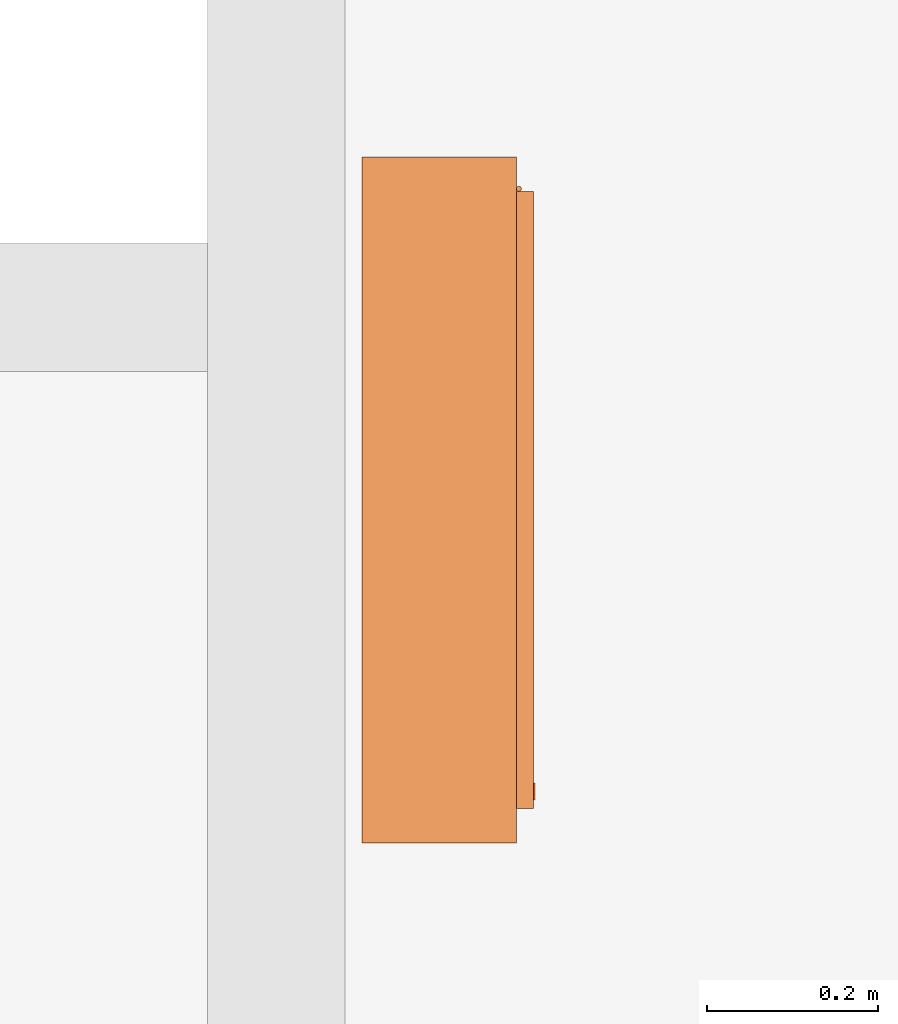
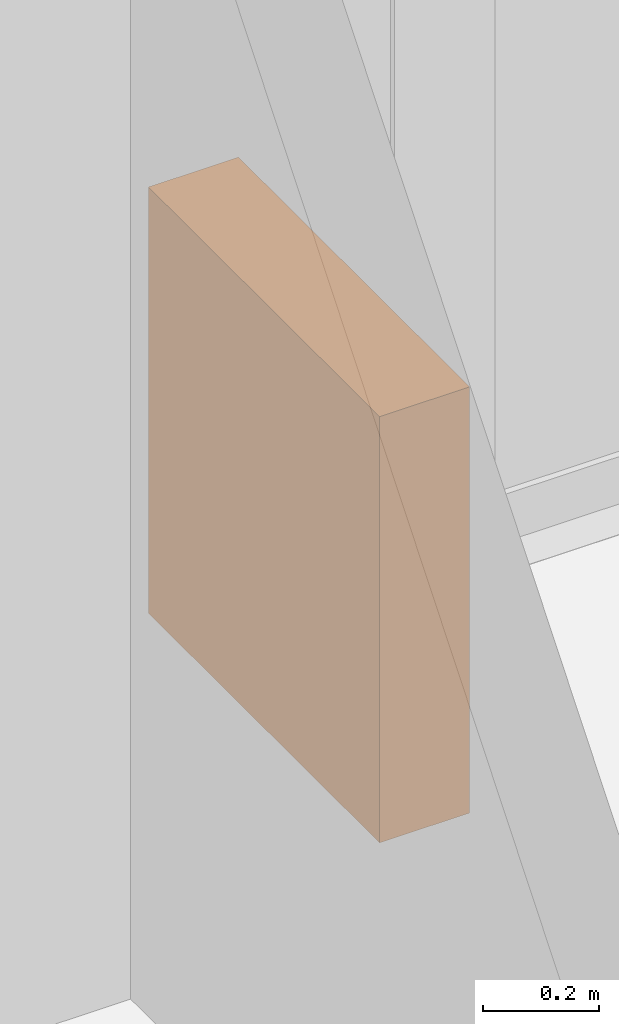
# One storey, part 10 of 67: 1 proxy.
"""IFC2X3 building model written with IfcOpenShell, lengths in millimetres."""

from ifc_helpers import new_model, entity, si_unit, converted_unit, derived_unit, money_unit, direction, frame, origin_with_axes, place, context, subcontext, project, spatial, faceted_brep, source, transform, mapped, type_object, element, save


model = new_model("IFC2X3")

# Units and contexts
model_context = context("Model", 3, precision=0.01, world=origin_with_axes(), true_north=direction((0.34421633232, 0.938890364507)))
body_context = subcontext(model_context, "Body", "Model", "MODEL_VIEW")
ifc_project = project(units=[si_unit("LENGTHUNIT", "METRE", prefix="MILLI"), si_unit("AREAUNIT", "SQUARE_METRE"), si_unit("VOLUMEUNIT", "CUBIC_METRE"), converted_unit("PLANEANGLEUNIT", "DEGREE", entity("IfcPlaneAngleMeasure", 0.0174532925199), si_unit("PLANEANGLEUNIT", "RADIAN"), dimensions=[0, 0, 0, 0, 0, 0, 0]), si_unit("SOLIDANGLEUNIT", "STERADIAN"), money_unit("USD"), converted_unit("TIMEUNIT", "Year", entity("IfcTimeMeasure", 31556926.0), si_unit("TIMEUNIT", "SECOND"), dimensions=[0, 0, 1, 0, 0, 0, 0]), si_unit("MASSUNIT", "GRAM", prefix="KILO"), si_unit("THERMODYNAMICTEMPERATUREUNIT", "DEGREE_CELSIUS"), si_unit("LUMINOUSINTENSITYUNIT", "LUMEN"), si_unit("ENERGYUNIT", "JOULE", prefix="MEGA"), derived_unit("THERMALCONDUCTANCEUNIT", [(si_unit("POWERUNIT", "WATT"), 1), (si_unit("LENGTHUNIT", "METRE"), -1), (si_unit("THERMODYNAMICTEMPERATUREUNIT", "KELVIN"), -1)]), derived_unit("SPECIFICHEATCAPACITYUNIT", [(si_unit("ENERGYUNIT", "JOULE"), 1), (si_unit("MASSUNIT", "GRAM", prefix="KILO"), -1), (si_unit("THERMODYNAMICTEMPERATUREUNIT", "KELVIN"), -1)]), derived_unit("MASSDENSITYUNIT", [(si_unit("MASSUNIT", "GRAM", prefix="KILO"), 1), (si_unit("VOLUMEUNIT", "CUBIC_METRE"), -1)])], contexts=[model_context])

# Site, building, storey
site_placement = place(None, origin_with_axes())
site = spatial("IfcSite", under=ifc_project, at=site_placement, Name="USTRONIE MORSKIE", CompositionType="ELEMENT")
building_placement = place(site_placement, origin_with_axes())
building = spatial("IfcBuilding", under=site, at=building_placement, Name="Budynek", CompositionType="ELEMENT")
storey_placement = place(building_placement, frame((0.0, 0.0, 4000.0), z_axis=(0.0, 0.0, 1.0), x_axis=(1.0, 0.0, 0.0)))
storey = spatial("IfcBuildingStorey", under=building, at=storey_placement, Name="PIĘTRO 1", CompositionType="ELEMENT", Elevation=4000.0)

# Proxy
building_element_proxy_type = type_object("IfcBuildingElementProxyType", Name="Skrzynka P-Poż 23", PredefinedType="NOTDEFINED")
shared_shape = source(origin_with_axes(), body_context, "Body", "Brep", [
    faceted_brep([(0.0, 40.0, 0.0), (0.0, 20.0, 0.0), (-800.0, 20.0, 0.0), (-800.0, 40.0, 0.0), (0.0, 40.0, 900.0), (0.0, 20.0, 900.0), (-800.0, 20.0, 900.0), (-60.0, 20.0, 60.0), (-740.0, 20.0, 60.0), (-740.0, 20.0, 840.0), (-60.0, 20.0, 840.0), (-800.0, 40.0, 900.0), (-60.0, 40.0, 60.0), (-60.0, 40.0, 840.0), (-740.0, 40.0, 840.0), (-740.0, 40.0, 60.0)], [[[0, 1, 2, 3]], [[4, 5, 1, 0]], [[1, 5, 6, 2], [7, 8, 9, 10]], [[3, 2, 6, 11]], [[0, 3, 11, 4], [12, 13, 14, 15]], [[11, 6, 5, 4]], [[15, 8, 7, 12]], [[14, 9, 8, 15]], [[13, 10, 9, 14]], [[12, 7, 10, 13]]]),
    faceted_brep([(-40.0, 20.0, 40.0), (-40.0, 0.0, 40.0), (-760.0, 0.0, 40.0), (-760.0, 20.0, 40.0), (-40.0, 20.0, 860.0), (-40.0, 0.0, 860.0), (-760.0, 0.0, 860.0), (-80.0, 0.0, 80.0), (-720.0, 0.0, 80.0), (-720.0, 0.0, 820.0), (-80.0, 0.0, 820.0), (-760.0, 20.0, 860.0), (-80.0, 20.0, 80.0), (-80.0, 20.0, 820.0), (-720.0, 20.0, 820.0), (-720.0, 20.0, 80.0)], [[[0, 1, 2, 3]], [[4, 5, 1, 0]], [[1, 5, 6, 2], [7, 8, 9, 10]], [[3, 2, 6, 11]], [[0, 3, 11, 4], [12, 13, 14, 15]], [[11, 6, 5, 4]], [[15, 8, 7, 12]], [[14, 9, 8, 15]], [[13, 10, 9, 14]], [[12, 7, 10, 13]]]),
    faceted_brep([(0.0, 180.0, 0.0), (0.0, 40.0, 0.0), (-800.0, 40.0, 0.0), (-800.0, 180.0, 0.0), (0.0, 180.0, 900.0), (0.0, 40.0, 900.0), (-800.0, 40.0, 900.0), (-20.0, 40.0, 20.0), (-780.0, 40.0, 20.0), (-780.0, 40.0, 880.0), (-20.0, 40.0, 880.0), (-800.0, 180.0, 900.0), (-20.0, 180.0, 20.0), (-20.0, 180.0, 880.0), (-780.0, 180.0, 880.0), (-780.0, 180.0, 20.0)], [[[0, 1, 2, 3]], [[4, 5, 1, 0]], [[1, 5, 6, 2], [7, 8, 9, 10]], [[3, 2, 6, 11]], [[0, 3, 11, 4], [12, 13, 14, 15]], [[11, 6, 5, 4]], [[15, 8, 7, 12]], [[14, 9, 8, 15]], [[13, 10, 9, 14]], [[12, 7, 10, 13]]]),
    faceted_brep([(0.0, 200.0, 0.0), (0.0, 180.0, 0.0), (-800.0, 180.0, 0.0), (-800.0, 200.0, 0.0), (0.0, 200.0, 900.0), (0.0, 180.0, 900.0), (-800.0, 180.0, 900.0), (-800.0, 200.0, 900.0)], [[[0, 1, 2, 3]], [[4, 5, 1, 0]], [[1, 5, 6, 2]], [[3, 2, 6, 7]], [[0, 3, 7, 4]], [[7, 6, 5, 4]]]),
    faceted_brep([(-80.0, 15.0, 80.0), (-80.0, 5.0, 80.0), (-720.0, 5.0, 80.0), (-720.0, 15.0, 80.0), (-80.0, 15.0, 820.0), (-80.0, 5.0, 820.0), (-720.0, 5.0, 820.0), (-720.0, 15.0, 820.0)], [[[0, 1, 2, 3]], [[4, 5, 1, 0]], [[1, 5, 6, 2]], [[3, 2, 6, 7]], [[0, 3, 7, 4]], [[7, 6, 5, 4]]]),
    faceted_brep([(-749.659258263, 0.0, 447.411809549), (-750.0, 0.0, 450.0), (-749.659258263, 0.0, 452.588190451), (-748.660254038, 0.0, 455.0), (-747.071067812, 0.0, 457.071067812), (-745.0, 0.0, 458.660254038), (-742.588190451, 0.0, 459.659258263), (-740.0, 0.0, 460.0), (-737.411809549, 0.0, 459.659258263), (-735.0, 0.0, 458.660254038), (-732.928932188, 0.0, 457.071067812), (-731.339745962, 0.0, 455.0), (-730.340741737, 0.0, 452.588190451), (-730.0, 0.0, 450.0), (-730.340741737, 0.0, 447.411809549), (-731.339745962, 0.0, 445.0), (-732.928932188, 0.0, 442.928932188), (-735.0, 0.0, 441.339745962), (-737.411809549, 0.0, 440.340741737), (-740.0, 0.0, 440.0), (-742.588190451, 0.0, 440.340741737), (-745.0, 0.0, 441.339745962), (-747.071067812, 0.0, 442.928932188), (-748.660254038, 0.0, 445.0), (-749.659258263, -2.0, 447.411809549), (-750.0, -2.0, 450.0), (-749.659258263, -2.0, 452.588190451), (-748.660254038, -2.0, 455.0), (-747.071067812, -2.0, 457.071067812), (-745.0, -2.0, 458.660254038), (-742.588190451, -2.0, 459.659258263), (-740.0, -2.0, 460.0), (-737.411809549, -2.0, 459.659258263), (-735.0, -2.0, 458.660254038), (-732.928932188, -2.0, 457.071067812), (-731.339745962, -2.0, 455.0), (-730.340741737, -2.0, 452.588190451), (-730.0, -2.0, 450.0), (-730.340741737, -2.0, 447.411809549), (-731.339745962, -2.0, 445.0), (-732.928932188, -2.0, 442.928932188), (-735.0, -2.0, 441.339745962), (-737.411809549, -2.0, 440.340741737), (-740.0, -2.0, 440.0), (-742.588190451, -2.0, 440.340741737), (-745.0, -2.0, 441.339745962), (-747.071067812, -2.0, 442.928932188), (-748.660254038, -2.0, 445.0)], [[[0, 1, 2, 3, 4, 5, 6, 7, 8, 9, 10, 11, 12, 13, 14, 15, 16, 17, 18, 19, 20, 21, 22, 23]], [[0, 24, 25, 1]], [[1, 25, 26, 2]], [[2, 26, 27, 3]], [[3, 27, 28, 4]], [[4, 28, 29, 5]], [[5, 29, 30, 6]], [[6, 30, 31, 7]], [[7, 31, 32, 8]], [[8, 32, 33, 9]], [[9, 33, 34, 10]], [[10, 34, 35, 11]], [[11, 35, 36, 12]], [[12, 36, 37, 13]], [[13, 37, 38, 14]], [[14, 38, 39, 15]], [[15, 39, 40, 16]], [[16, 40, 41, 17]], [[17, 41, 42, 18]], [[18, 42, 43, 19]], [[19, 43, 44, 20]], [[20, 44, 45, 21]], [[21, 45, 46, 22]], [[22, 46, 47, 23]], [[23, 47, 24, 0]], [[24, 47, 46, 45, 44, 43, 42, 41, 40, 39, 38, 37, 36, 35, 34, 33, 32, 31, 30, 29, 28, 27, 26, 25]]]),
    faceted_brep([(-39.8977774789, 16.2235428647, 80.0), (-40.0, 17.0, 80.0), (-39.8977774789, 17.7764571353, 80.0), (-39.5980762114, 18.5, 80.0), (-39.1213203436, 19.1213203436, 80.0), (-38.5, 19.5980762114, 80.0), (-37.7764571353, 19.8977774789, 80.0), (-37.0, 20.0, 80.0), (-36.2235428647, 19.8977774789, 80.0), (-35.5, 19.5980762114, 80.0), (-34.8786796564, 19.1213203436, 80.0), (-34.4019237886, 18.5, 80.0), (-34.1022225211, 17.7764571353, 80.0), (-34.0, 17.0, 80.0), (-34.1022225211, 16.2235428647, 80.0), (-34.4019237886, 15.5, 80.0), (-34.8786796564, 14.8786796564, 80.0), (-35.5, 14.4019237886, 80.0), (-36.2235428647, 14.1022225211, 80.0), (-37.0, 14.0, 80.0), (-37.7764571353, 14.1022225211, 80.0), (-38.5, 14.4019237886, 80.0), (-39.1213203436, 14.8786796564, 80.0), (-39.5980762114, 15.5, 80.0), (-39.8977774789, 16.2235428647, 120.0), (-40.0, 17.0, 120.0), (-39.8977774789, 17.7764571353, 120.0), (-39.5980762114, 18.5, 120.0), (-39.1213203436, 19.1213203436, 120.0), (-38.5, 19.5980762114, 120.0), (-37.7764571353, 19.8977774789, 120.0), (-37.0, 20.0, 120.0), (-36.2235428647, 19.8977774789, 120.0), (-35.5, 19.5980762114, 120.0), (-34.8786796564, 19.1213203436, 120.0), (-34.4019237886, 18.5, 120.0), (-34.1022225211, 17.7764571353, 120.0), (-34.0, 17.0, 120.0), (-34.1022225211, 16.2235428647, 120.0), (-34.4019237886, 15.5, 120.0), (-34.8786796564, 14.8786796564, 120.0), (-35.5, 14.4019237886, 120.0), (-36.2235428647, 14.1022225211, 120.0), (-37.0, 14.0, 120.0), (-37.7764571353, 14.1022225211, 120.0), (-38.5, 14.4019237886, 120.0), (-39.1213203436, 14.8786796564, 120.0), (-39.5980762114, 15.5, 120.0)], [[[0, 1, 2, 3, 4, 5, 6, 7, 8, 9, 10, 11, 12, 13, 14, 15, 16, 17, 18, 19, 20, 21, 22, 23]], [[0, 24, 25, 1]], [[1, 25, 26, 2]], [[2, 26, 27, 3]], [[3, 27, 28, 4]], [[4, 28, 29, 5]], [[5, 29, 30, 6]], [[6, 30, 31, 7]], [[7, 31, 32, 8]], [[8, 32, 33, 9]], [[9, 33, 34, 10]], [[10, 34, 35, 11]], [[11, 35, 36, 12]], [[12, 36, 37, 13]], [[13, 37, 38, 14]], [[14, 38, 39, 15]], [[15, 39, 40, 16]], [[16, 40, 41, 17]], [[17, 41, 42, 18]], [[18, 42, 43, 19]], [[19, 43, 44, 20]], [[20, 44, 45, 21]], [[21, 45, 46, 22]], [[22, 46, 47, 23]], [[23, 47, 24, 0]], [[24, 47, 46, 45, 44, 43, 42, 41, 40, 39, 38, 37, 36, 35, 34, 33, 32, 31, 30, 29, 28, 27, 26, 25]]]),
    faceted_brep([(-39.8977774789, 16.2235428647, 780.0), (-40.0, 17.0, 780.0), (-39.8977774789, 17.7764571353, 780.0), (-39.5980762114, 18.5, 780.0), (-39.1213203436, 19.1213203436, 780.0), (-38.5, 19.5980762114, 780.0), (-37.7764571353, 19.8977774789, 780.0), (-37.0, 20.0, 780.0), (-36.2235428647, 19.8977774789, 780.0), (-35.5, 19.5980762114, 780.0), (-34.8786796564, 19.1213203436, 780.0), (-34.4019237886, 18.5, 780.0), (-34.1022225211, 17.7764571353, 780.0), (-34.0, 17.0, 780.0), (-34.1022225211, 16.2235428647, 780.0), (-34.4019237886, 15.5, 780.0), (-34.8786796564, 14.8786796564, 780.0), (-35.5, 14.4019237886, 780.0), (-36.2235428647, 14.1022225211, 780.0), (-37.0, 14.0, 780.0), (-37.7764571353, 14.1022225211, 780.0), (-38.5, 14.4019237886, 780.0), (-39.1213203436, 14.8786796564, 780.0), (-39.5980762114, 15.5, 780.0), (-39.8977774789, 16.2235428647, 820.0), (-40.0, 17.0, 820.0), (-39.8977774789, 17.7764571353, 820.0), (-39.5980762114, 18.5, 820.0), (-39.1213203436, 19.1213203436, 820.0), (-38.5, 19.5980762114, 820.0), (-37.7764571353, 19.8977774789, 820.0), (-37.0, 20.0, 820.0), (-36.2235428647, 19.8977774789, 820.0), (-35.5, 19.5980762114, 820.0), (-34.8786796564, 19.1213203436, 820.0), (-34.4019237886, 18.5, 820.0), (-34.1022225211, 17.7764571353, 820.0), (-34.0, 17.0, 820.0), (-34.1022225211, 16.2235428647, 820.0), (-34.4019237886, 15.5, 820.0), (-34.8786796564, 14.8786796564, 820.0), (-35.5, 14.4019237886, 820.0), (-36.2235428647, 14.1022225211, 820.0), (-37.0, 14.0, 820.0), (-37.7764571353, 14.1022225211, 820.0), (-38.5, 14.4019237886, 820.0), (-39.1213203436, 14.8786796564, 820.0), (-39.5980762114, 15.5, 820.0)], [[[0, 1, 2, 3, 4, 5, 6, 7, 8, 9, 10, 11, 12, 13, 14, 15, 16, 17, 18, 19, 20, 21, 22, 23]], [[0, 24, 25, 1]], [[1, 25, 26, 2]], [[2, 26, 27, 3]], [[3, 27, 28, 4]], [[4, 28, 29, 5]], [[5, 29, 30, 6]], [[6, 30, 31, 7]], [[7, 31, 32, 8]], [[8, 32, 33, 9]], [[9, 33, 34, 10]], [[10, 34, 35, 11]], [[11, 35, 36, 12]], [[12, 36, 37, 13]], [[13, 37, 38, 14]], [[14, 38, 39, 15]], [[15, 39, 40, 16]], [[16, 40, 41, 17]], [[17, 41, 42, 18]], [[18, 42, 43, 19]], [[19, 43, 44, 20]], [[20, 44, 45, 21]], [[21, 45, 46, 22]], [[22, 46, 47, 23]], [[23, 47, 24, 0]], [[24, 47, 46, 45, 44, 43, 42, 41, 40, 39, 38, 37, 36, 35, 34, 33, 32, 31, 30, 29, 28, 27, 26, 25]]]),
])
proxy_placement = place(storey_placement, frame((357817.920919, 720401.199036, 600.0), z_axis=(0.0, 0.0, 1.0), x_axis=(0.0, 1.0, 0.0)))
element("IfcBuildingElementProxy", 1, at=proxy_placement, inside=storey, type_object=building_element_proxy_type, Name="OB3", context=body_context, shape_type="MappedRepresentation", body=[
    mapped(shared_shape, transform((0.0, 0.0, 0.0))),
])

save(model, "model.ifc")
